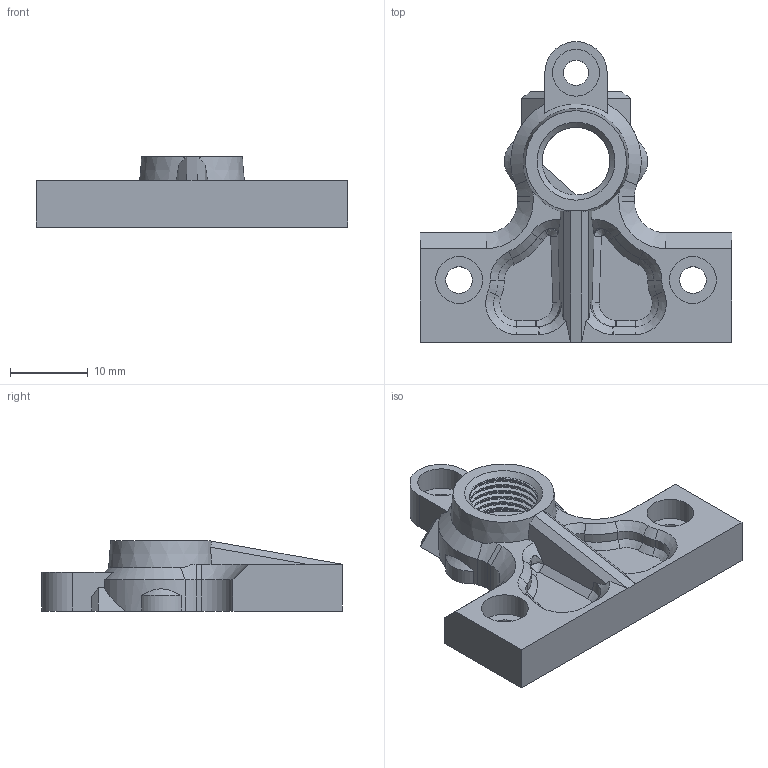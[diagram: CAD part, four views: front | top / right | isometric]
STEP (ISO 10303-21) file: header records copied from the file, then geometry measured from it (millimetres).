
FILE_DESCRIPTION(/* description */ (''),/* implementation_level */ '2;1');
FILE_NAME(/* name */ 'HMG7-Slice-Copperhead-Bowden-PC4-M10-Cap.step',/* time_stamp */ '2022-11-01T21:39:48-07:00',/* author */ (''),/* organization */ (''),/* preprocessor_version */ 'ST-DEVELOPER v19.2',/* originating_system */ 'Autodesk Translation Framework v11.17.0.187',/* authorisation */ '');
FILE_SCHEMA (('AUTOMOTIVE_DESIGN { 1 0 10303 214 3 1 1 }'));
Length unit declared in the file: millimetre
Products named in the file (4): GEN_7_1.5; Copperhead; Copperhead_Interface_Plate; Copperhead_Bowden_Plate
Assembly tree (3 placements, depth 4):
  GEN_7_1.5
    Copperhead
      Copperhead_Interface_Plate
        Copperhead_Bowden_Plate
Bounding box: 40 x 38.58 x 9 mm (x, y, z)
Volume: 4145.2 mm3; surface area: 3338.1 mm2
Topology: 1 solids, 1 shells, 137 faces, 357 edges, 225 vertices
Faces by surface type: plane 43, cylinder 35, bspline 34, cone 25
Full cylindrical faces by diameter (mm): 3.2 x1, 3.4 x2, 6 x3, 9.728 x8
Entity records: 9128 total; most frequent: CARTESIAN_POINT 5913, ORIENTED_EDGE 714, DIRECTION 553, EDGE_CURVE 357, VERTEX_POINT 225, AXIS2_PLACEMENT_3D 195, LINE 163, VECTOR 163
